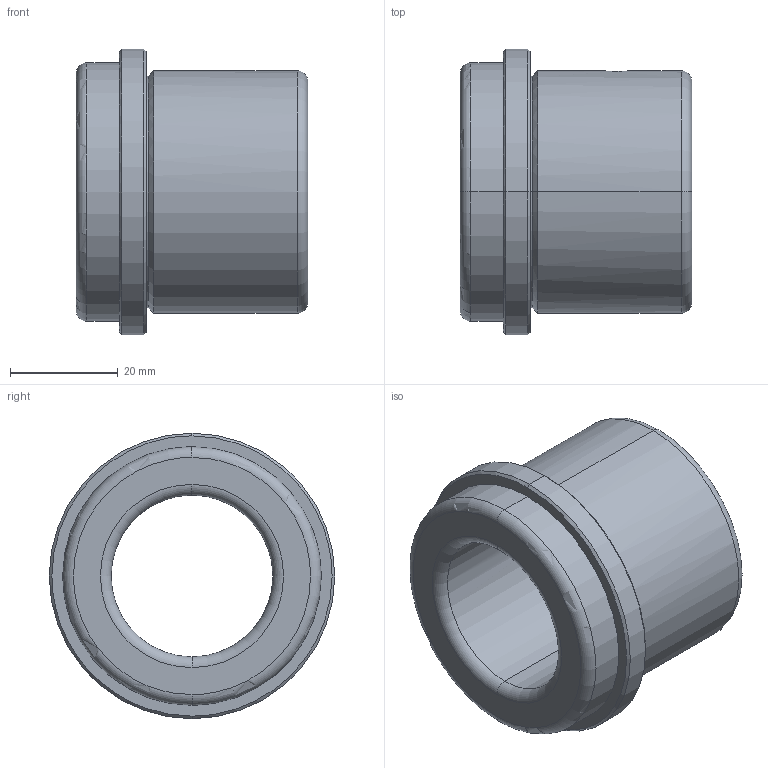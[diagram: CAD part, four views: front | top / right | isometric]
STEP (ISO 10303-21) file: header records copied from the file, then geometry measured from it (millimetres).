
FILE_DESCRIPTION(('CATIA V5 STEP Exchange'),'2;1');
FILE_NAME('C:\Users\Utente\Desktop\IO LAVORO\3D X SITO CF\X SITO\FAMO\FAMO-SF1-A30 x 43.stp','2021-01-06T16:22:51+00:00',('none'),('none'),'CATIA Version 5 Release 20 GA (IN-10)','CATIA V5 STEP AP203','none');
FILE_SCHEMA(('CONFIG_CONTROL_DESIGN'));
Length unit declared in the file: millimetre
Products named in the file (1): FAMO-SF1-A30 x 43
Bounding box: 43 x 53 x 53 mm (x, y, z)
Volume: 41826.6 mm3; surface area: 13285.3 mm2
Topology: 1 solids, 1 shells, 33 faces, 106 edges, 78 vertices
Faces by surface type: cylinder 12, torus 8, cone 8, plane 5
Entity records: 1426 total; most frequent: CARTESIAN_POINT 450, ORIENTED_EDGE 212, DIRECTION 156, EDGE_CURVE 106, AXIS2_PLACEMENT_3D 104, VERTEX_POINT 78, CIRCLE 70, EDGE_LOOP 40
